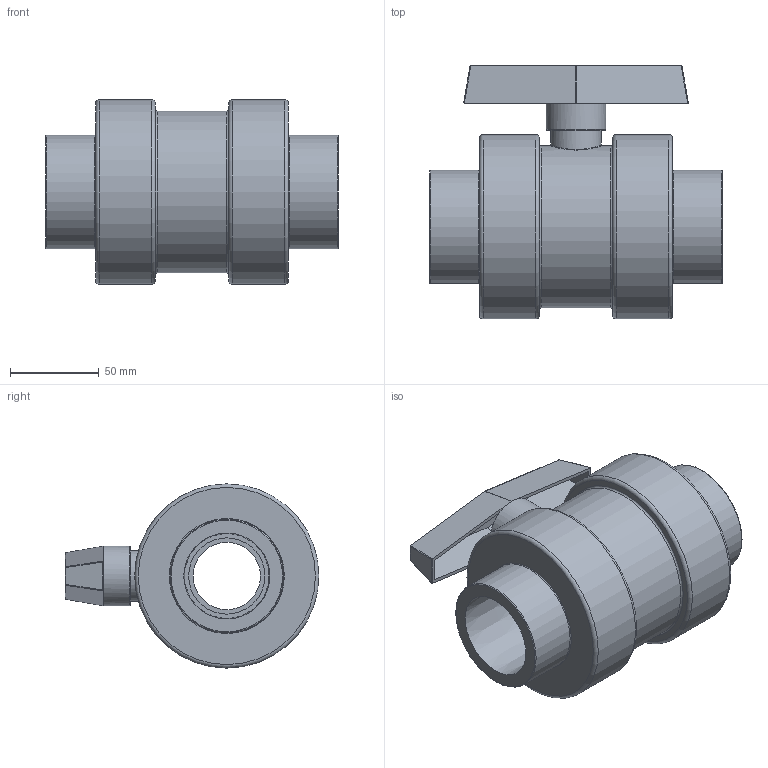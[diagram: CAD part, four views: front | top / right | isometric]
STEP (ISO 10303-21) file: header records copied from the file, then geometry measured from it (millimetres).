
FILE_DESCRIPTION (( 'STEP AP214' ), '1' );
FILE_NAME ('1-½ Inch -101 Series Ball Valves.STEP', '2020-10-27T09:05:17', ( '' ), ( '' ), 'SwSTEP 2.0', 'SolidWorks 2019', '' );
FILE_SCHEMA (( 'AUTOMOTIVE_DESIGN' ));
Length unit declared in the file: inch
Products named in the file (1): 1-ｽ Inch -101 Series Ball Valves
Bounding box: 165.1 x 143.27 x 103.98 mm (x, y, z)
Volume: 804982.6 mm3; surface area: 104958.7 mm2
Topology: 2 solids, 2 shells, 78 faces, 169 edges, 97 vertices
Faces by surface type: plane 31, cylinder 27, torus 11, sphere 6, cone 2, bspline 1
Full cylindrical faces by diameter (mm): 23.681 x1, 28.761 x2, 33.761 x1, 37.998 x1, 43.053 x2, 63.983 x2, 91.281 x1, 103.981 x2
Entity records: 2528 total; most frequent: CARTESIAN_POINT 927, DIRECTION 338, ORIENTED_EDGE 266, AXIS2_PLACEMENT_3D 140, EDGE_CURVE 133, EDGE_LOOP 118, FACE_OUTER_BOUND 102, VERTEX_POINT 93
